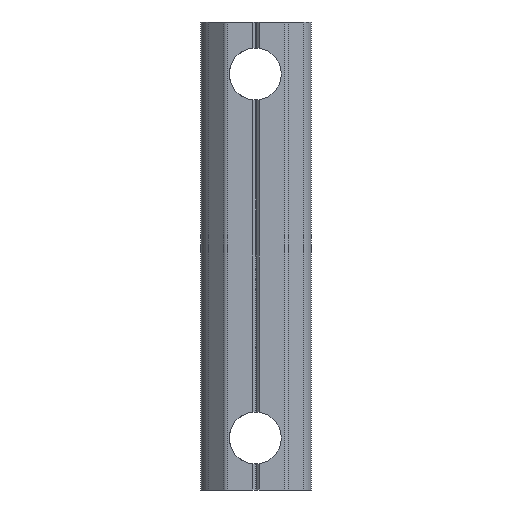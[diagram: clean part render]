
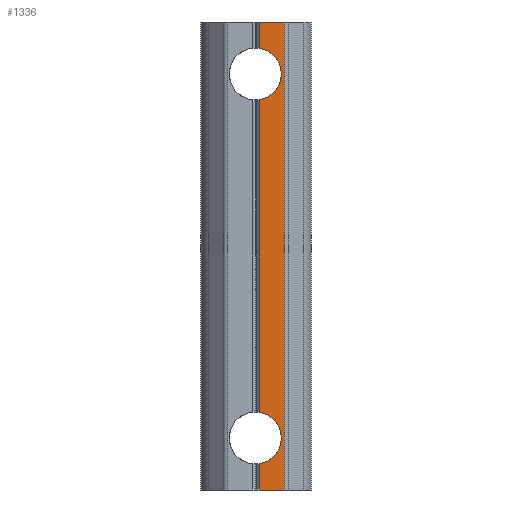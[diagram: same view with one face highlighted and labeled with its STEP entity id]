
A CAD part, front view. The second image highlights one B-rep face of the part: STEP entity #1336.
In plain terms, the highlighted planar face has unit normal (0, -1, 0).
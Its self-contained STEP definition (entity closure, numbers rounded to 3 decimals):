
#12 = LINE ( 'NONE', #1704, #1716 ) ;
#39 = DIRECTION ( 'NONE',  ( 1., 0., 0. ) ) ;
#47 = DIRECTION ( 'NONE',  ( 0., -1., 0. ) ) ;
#60 = EDGE_CURVE ( 'NONE', #1702, #1145, #12, .T. ) ;
#80 = EDGE_CURVE ( 'NONE', #641, #1265, #1876, .T. ) ;
#105 = VERTEX_POINT ( 'NONE', #323 ) ;
#149 = LINE ( 'NONE', #844, #1730 ) ;
#152 = CARTESIAN_POINT ( 'NONE',  ( 2.728, 0., -22.5 ) ) ;
#196 = CARTESIAN_POINT ( 'NONE',  ( 2.728, 0., 22.5 ) ) ;
#232 = DIRECTION ( 'NONE',  ( 0., 0., 1. ) ) ;
#303 = DIRECTION ( 'NONE',  ( 0., 0., 1. ) ) ;
#311 = ORIENTED_EDGE ( 'NONE', *, *, #1852, .F. ) ;
#316 = DIRECTION ( 'NONE',  ( 0., 0., 1. ) ) ;
#319 = CARTESIAN_POINT ( 'NONE',  ( 2.728, 0., 22.5 ) ) ;
#323 = CARTESIAN_POINT ( 'NONE',  ( 0.291, 0., -15.026 ) ) ;
#330 = PLANE ( 'NONE',  #749 ) ;
#341 = AXIS2_PLACEMENT_3D ( 'NONE', #1432, #1298, #1273 ) ;
#404 = VERTEX_POINT ( 'NONE', #1753 ) ;
#421 = ORIENTED_EDGE ( 'NONE', *, *, #1471, .F. ) ;
#425 = EDGE_CURVE ( 'NONE', #1265, #457, #896, .T. ) ;
#448 = LINE ( 'NONE', #701, #1639 ) ;
#457 = VERTEX_POINT ( 'NONE', #1772 ) ;
#641 = VERTEX_POINT ( 'NONE', #152 ) ;
#701 = CARTESIAN_POINT ( 'NONE',  ( 0.291, 0., -22.5 ) ) ;
#734 = DIRECTION ( 'NONE',  ( -1., 0., 0. ) ) ;
#736 = ORIENTED_EDGE ( 'NONE', *, *, #865, .F. ) ;
#749 = AXIS2_PLACEMENT_3D ( 'NONE', #767, #47, #39 ) ;
#755 = EDGE_LOOP ( 'NONE', ( #311, #1054, #1573, #1034, #421, #1903, #736, #1207 ) ) ;
#756 = DIRECTION ( 'NONE',  ( -1., 0., 0. ) ) ;
#763 = DIRECTION ( 'NONE',  ( 0., 0., -1. ) ) ;
#767 = CARTESIAN_POINT ( 'NONE',  ( 2.936, 0., 22.5 ) ) ;
#841 = VECTOR ( 'NONE', #303, 1000. ) ;
#844 = CARTESIAN_POINT ( 'NONE',  ( 2.936, 0., -22.5 ) ) ;
#847 = EDGE_CURVE ( 'NONE', #404, #457, #892, .T. ) ;
#863 = CARTESIAN_POINT ( 'NONE',  ( -0.071, 0., -17.5 ) ) ;
#865 = EDGE_CURVE ( 'NONE', #1145, #105, #1257, .T. ) ;
#892 = LINE ( 'NONE', #1125, #841 ) ;
#896 = LINE ( 'NONE', #1483, #1409 ) ;
#901 = DIRECTION ( 'NONE',  ( 0., 0., 1. ) ) ;
#929 = AXIS2_PLACEMENT_3D ( 'NONE', #863, #1784, #763 ) ;
#1034 = ORIENTED_EDGE ( 'NONE', *, *, #847, .F. ) ;
#1044 = CARTESIAN_POINT ( 'NONE',  ( 0.291, 0., 15.026 ) ) ;
#1054 = ORIENTED_EDGE ( 'NONE', *, *, #80, .T. ) ;
#1057 = CARTESIAN_POINT ( 'NONE',  ( 0.291, 0., -22.5 ) ) ;
#1125 = CARTESIAN_POINT ( 'NONE',  ( 0.291, 0., -22.5 ) ) ;
#1133 = VERTEX_POINT ( 'NONE', #1044 ) ;
#1145 = VERTEX_POINT ( 'NONE', #1865 ) ;
#1149 = CIRCLE ( 'NONE', #341, 2.5 ) ;
#1207 = ORIENTED_EDGE ( 'NONE', *, *, #60, .F. ) ;
#1257 = CIRCLE ( 'NONE', #929, 2.5 ) ;
#1265 = VERTEX_POINT ( 'NONE', #196 ) ;
#1273 = DIRECTION ( 'NONE',  ( 0., 0., -1. ) ) ;
#1298 = DIRECTION ( 'NONE',  ( 0., -1., 0. ) ) ;
#1299 = FACE_OUTER_BOUND ( 'NONE', #755, .T. ) ;
#1336 = ADVANCED_FACE ( 'NONE', ( #1299 ), #330, .T. ) ;
#1409 = VECTOR ( 'NONE', #734, 1000. ) ;
#1432 = CARTESIAN_POINT ( 'NONE',  ( -0.071, 0., 17.5 ) ) ;
#1471 = EDGE_CURVE ( 'NONE', #1133, #404, #1149, .T. ) ;
#1483 = CARTESIAN_POINT ( 'NONE',  ( 2.936, 0., 22.5 ) ) ;
#1573 = ORIENTED_EDGE ( 'NONE', *, *, #425, .T. ) ;
#1639 = VECTOR ( 'NONE', #901, 1000. ) ;
#1702 = VERTEX_POINT ( 'NONE', #1057 ) ;
#1704 = CARTESIAN_POINT ( 'NONE',  ( 0.291, 0., -22.5 ) ) ;
#1716 = VECTOR ( 'NONE', #316, 1000. ) ;
#1730 = VECTOR ( 'NONE', #756, 1000. ) ;
#1753 = CARTESIAN_POINT ( 'NONE',  ( 0.291, 0., 19.974 ) ) ;
#1772 = CARTESIAN_POINT ( 'NONE',  ( 0.291, 0., 22.5 ) ) ;
#1784 = DIRECTION ( 'NONE',  ( 0., -1., 0. ) ) ;
#1852 = EDGE_CURVE ( 'NONE', #641, #1702, #149, .T. ) ;
#1865 = CARTESIAN_POINT ( 'NONE',  ( 0.291, 0., -19.974 ) ) ;
#1876 = LINE ( 'NONE', #319, #1892 ) ;
#1892 = VECTOR ( 'NONE', #232, 1000. ) ;
#1898 = EDGE_CURVE ( 'NONE', #105, #1133, #448, .T. ) ;
#1903 = ORIENTED_EDGE ( 'NONE', *, *, #1898, .F. ) ;
